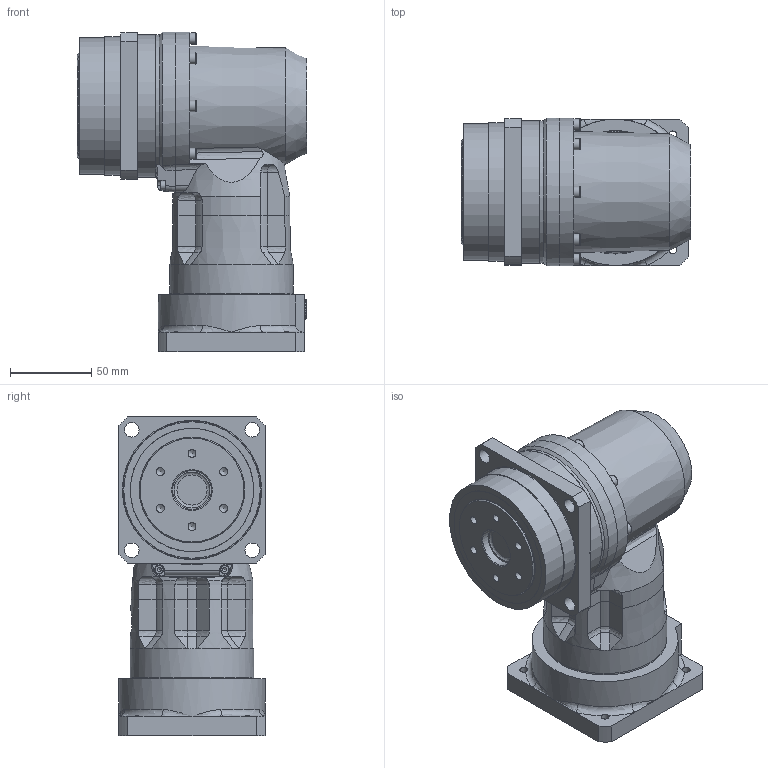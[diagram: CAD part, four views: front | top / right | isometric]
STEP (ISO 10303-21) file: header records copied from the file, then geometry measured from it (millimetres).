
FILE_DESCRIPTION(/* description */ ('ANFX-PK120F-2-7V'),/* implementation_level */ '2;1');
FILE_NAME(/* name */ 'C:\Users\ADMINI~1\AppData\Local\Temp\MM581776_ANFX-PK120F-2-7V.stp',/* time_stamp */ '2018-07-11T07:47:32+02:00',/* author */ ('Berger'),/* organization */ (''),/* preprocessor_version */ 'ST-DEVELOPER v17',/* originating_system */ 'Autodesk Inventor 2018',/* authorisation */ '');
FILE_SCHEMA (('AUTOMOTIVE_DESIGN { 1 0 10303 214 3 1 1 }'));
Length unit declared in the file: millimetre
Products named in the file (26): MM581710; MMBG0004105; MMCM057LG; MMAF787LG; M204639; M204639-1; M204639-2; M204639-3; M204639-4; MMAP6499G; 009M005R014NG; M530A30508---G; 211458; 205792; 200409; MMBG0004078; MMCL445LG; MMCM226LG; MAX4840G; MAW8381G; MMBG0004116; MMAF790LG; 203366; MMCH633LG; MAW8386G; 200458
Assembly tree (67 placements, depth 4):
  MM581710
    MMBG0004105
      MMCM057LG
      MMAF787LG
      M204639
        M204639-1
        M204639-2
        M204639-3  x2
        M204639-4  x12
      MMAP6499G
      009M005R014NG
      M530A30508---G
      211458  x2
      205792  x8
      200409  x7
    MMBG0004078
      MMCL445LG
      MMCM226LG
      MAX4840G
      MAW8381G
    MMBG0004116
      MMAF790LG
      203366  x10
    MMCH633LG
    MAW8386G
    200458  x8
Bounding box: 141.5 x 90.93 x 196.54 mm (x, y, z)
Volume: 722260.9 mm3; surface area: 262029.8 mm2
Topology: 105 solids, 105 shells, 1173 faces, 3255 edges, 2275 vertices
Faces by surface type: plane 550, cylinder 292, cone 141, torus 78, bspline 59, sphere 53
Full cylindrical faces by diameter (mm): 2 x1, 2.459 x10, 3 x10, 3.242 x15, 3.4 x10, 4 x15, 4.134 x9, 4.5 x15, 4.917 x10, 5 x9, 5.5 x19, 6.5 x8, 7 x15, 8.5 x9, 8.566 x2, 9 x4, 9.8 x1, 10 x1, 10.2 x1, 10.4 x1, 12 x1, 14 x1, 15 x2, 19.5 x1, 24 x2, 28.6 x1, 29 x1, 29.4 x1, 29.6 x1, 30 x2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
Entity records: 26384 total; most frequent: CARTESIAN_POINT 6060, DIRECTION 4331, ORIENTED_EDGE 3820, EDGE_CURVE 1910, AXIS2_PLACEMENT_3D 1838, VERTEX_POINT 1418, CIRCLE 1050, EDGE_LOOP 946
